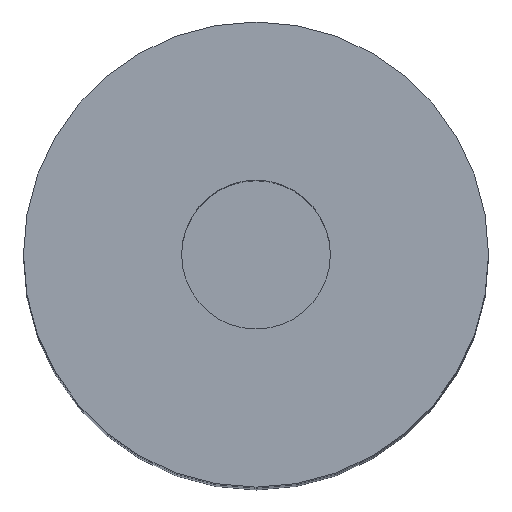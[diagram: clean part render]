
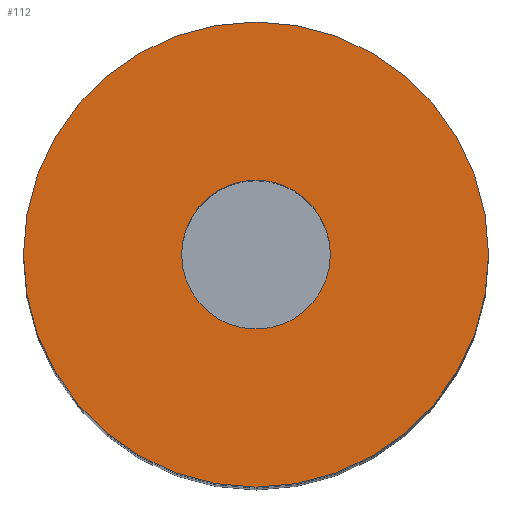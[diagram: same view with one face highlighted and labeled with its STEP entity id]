
A CAD part, top view. The second image highlights one B-rep face of the part: STEP entity #112.
In plain terms, the highlighted planar face has unit normal (0, 0, 1).
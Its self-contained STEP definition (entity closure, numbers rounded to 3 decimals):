
#99=PLANE('',#310);
#104=FACE_BOUND('',#147,.T.);
#105=FACE_BOUND('',#148,.T.);
#112=ADVANCED_FACE('',(#104,#105),#99,.T.);
#147=EDGE_LOOP('',(#191,#192));
#148=EDGE_LOOP('',(#193,#194));
#163=CIRCLE('',#302,4.);
#166=CIRCLE('',#306,4.);
#167=CIRCLE('',#308,12.5);
#168=CIRCLE('',#309,12.5);
#191=ORIENTED_EDGE('',*,*,#263,.F.);
#192=ORIENTED_EDGE('',*,*,#264,.F.);
#193=ORIENTED_EDGE('',*,*,#262,.T.);
#194=ORIENTED_EDGE('',*,*,#258,.T.);
#240=VERTEX_POINT('',#420);
#241=VERTEX_POINT('',#422);
#243=VERTEX_POINT('',#431);
#244=VERTEX_POINT('',#432);
#258=EDGE_CURVE('',#241,#240,#163,.T.);
#262=EDGE_CURVE('',#240,#241,#166,.T.);
#263=EDGE_CURVE('',#243,#244,#167,.T.);
#264=EDGE_CURVE('',#244,#243,#168,.T.);
#302=AXIS2_PLACEMENT_3D('',#421,#340,#341);
#306=AXIS2_PLACEMENT_3D('',#428,#349,#350);
#308=AXIS2_PLACEMENT_3D('',#430,#353,#354);
#309=AXIS2_PLACEMENT_3D('',#433,#355,#356);
#310=AXIS2_PLACEMENT_3D('',#434,#357,#358);
#340=DIRECTION('',(0.,0.,-1.));
#341=DIRECTION('',(1.,0.,0.));
#349=DIRECTION('',(0.,0.,-1.));
#350=DIRECTION('',(-1.,0.,0.));
#353=DIRECTION('',(0.,0.,-1.));
#354=DIRECTION('',(1.,0.,0.));
#355=DIRECTION('',(0.,0.,-1.));
#356=DIRECTION('',(-1.,0.,0.));
#357=DIRECTION('',(0.,0.,1.));
#358=DIRECTION('',(-1.,0.,0.));
#420=CARTESIAN_POINT('',(0.,4.,0.));
#421=CARTESIAN_POINT('',(0.,0.,0.));
#422=CARTESIAN_POINT('',(0.,-4.,0.));
#428=CARTESIAN_POINT('',(0.,0.,0.));
#430=CARTESIAN_POINT('',(0.,0.,0.));
#431=CARTESIAN_POINT('',(0.,-12.5,0.));
#432=CARTESIAN_POINT('',(0.,12.5,0.));
#433=CARTESIAN_POINT('',(0.,0.,0.));
#434=CARTESIAN_POINT('',(0.,0.,0.));
